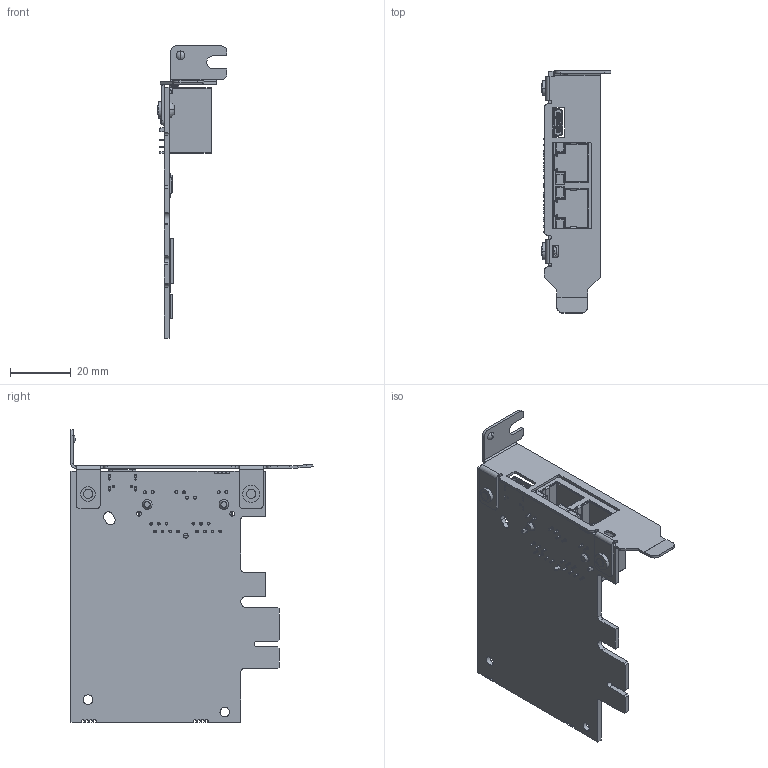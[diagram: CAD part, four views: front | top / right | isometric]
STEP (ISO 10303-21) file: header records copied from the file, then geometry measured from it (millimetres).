
FILE_DESCRIPTION (( 'STEP AP214' ), '1' );
FILE_NAME ('TL-LowProfile-Rev0.STEP', '2021-10-28T15:32:07', ( '' ), ( '' ), 'SwSTEP 2.0', 'SolidWorks 2020', '' );
FILE_SCHEMA (( 'AUTOMOTIVE_DESIGN' ));
Length unit declared in the file: millimetre
Products named in the file (4): Screw-Torx-Linse-M3x4_M3 - L4; PCI-Bracket-LP-TLO500; TLO500_PCBA_Rev0; TL-LowProfile-Rev0
Assembly tree (4 placements, depth 2):
  TL-LowProfile-Rev0
    PCI-Bracket-LP-TLO500
    TLO500_PCBA_Rev0
    Screw-Torx-Linse-M3x4_M3 - L4  x2
Bounding box: 23.13 x 80.08 x 96.73 mm (x, y, z)
Volume: 17028.7 mm3; surface area: 20071 mm2
Topology: 15 solids, 15 shells, 3963 faces, 10194 edges, 6711 vertices
Faces by surface type: plane 2222, cylinder 1301, sphere 354, bspline 40, torus 32, cone 14
Entity records: 147159 total; most frequent: CARTESIAN_POINT 62010, ORIENTED_EDGE 20238, DIRECTION 10334, EDGE_CURVE 10119, B_SPLINE_CURVE_WITH_KNOTS 8239, VERTEX_POINT 6669, AXIS2_PLACEMENT_3D 4594, EDGE_LOOP 4486
